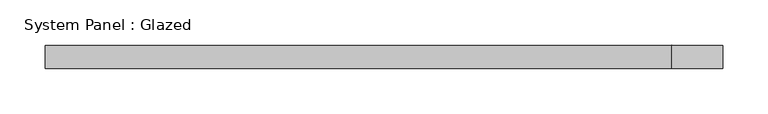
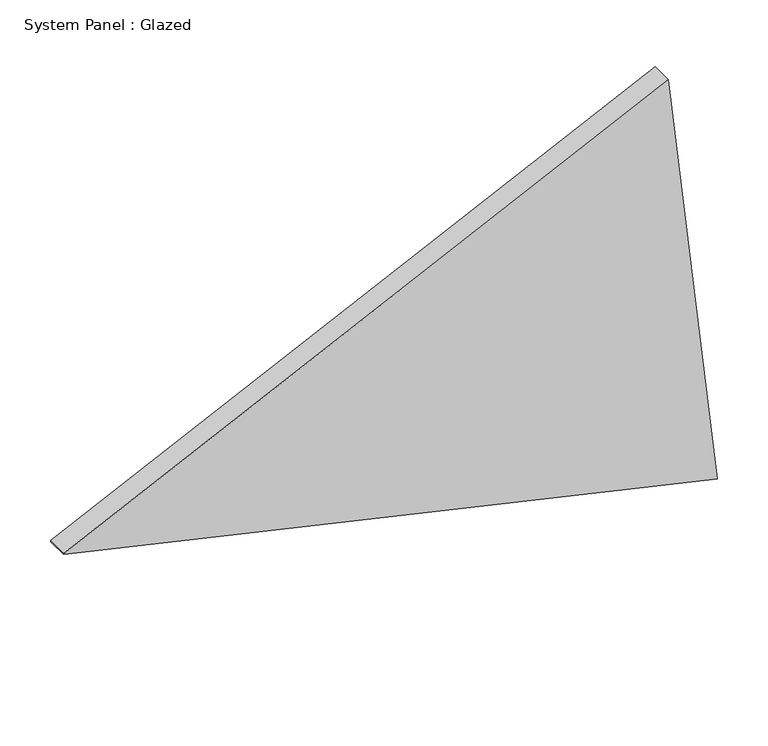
"""IFC4 building model written with IfcOpenShell, lengths in millimetres: plate geometry, System Panel : Glazed."""

from ifc_helpers import new_model, si_unit, frame, origin, place, context, project, spatial, polyline, outline, extrude, source, transform, mapped, element, save


def system_panel_glazed_cda2b1d7(model_context):
    return source(origin(), model_context, "Body", "SweptSolid", [
        extrude(outline(polyline([(169.4405073, -371.8007484), (0.0, 371.9865473), (500.2473012, 316.1965354), (171.1064932, -371.9865473), (169.4405073, -371.8007484)])), frame((0.0, -44.45, 0.0), z_axis=(0.0, 1.0, 0.0), x_axis=(0.0, 0.0, 1.0)), (0.0, 0.0, 1.0), 25.4),
    ])


if __name__ == "__main__":
    model = new_model("IFC4")
    model_context = context("Model", 3, world=origin())
    ifc_project = project(units=[si_unit("LENGTHUNIT", "METRE", prefix="MILLI")], contexts=[model_context])
    site = spatial("IfcSite", under=ifc_project)
    building = spatial("IfcBuilding", under=site)
    placement = place(None, origin())
    system_panel_glazed_shape = system_panel_glazed_cda2b1d7(model_context)
    element("IfcPlate", 1, ObjectType="System Panel : Glazed", at=placement, inside=building, context=model_context, shape_type="MappedRepresentation", body=[
        mapped(system_panel_glazed_shape, transform((0.0, 0.0, 0.0), x_axis=(1.0, 0.0, 0.0), y_axis=(0.0, 1.0, 0.0), z_axis=(0.0, 0.0, 1.0))),
    ])
    save(model, "model.ifc")
